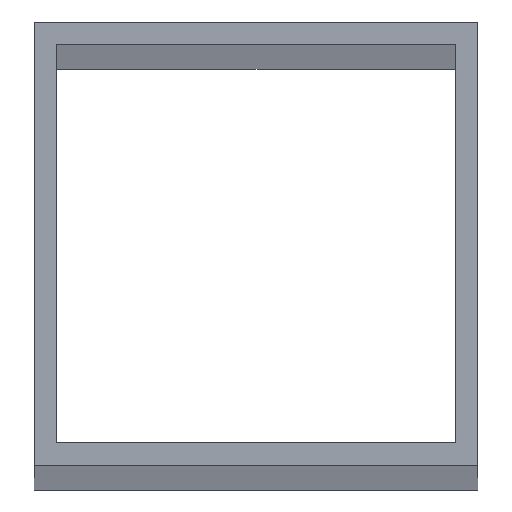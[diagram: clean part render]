
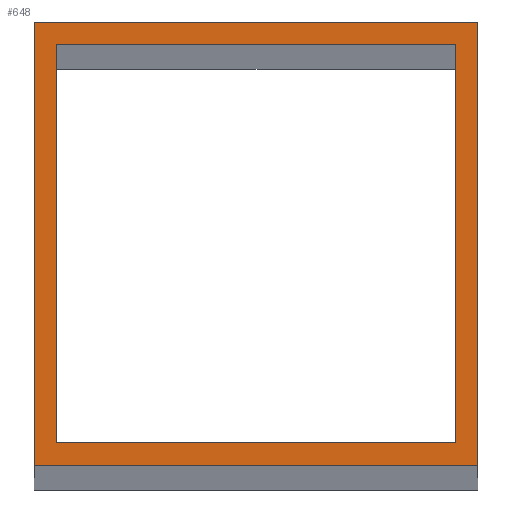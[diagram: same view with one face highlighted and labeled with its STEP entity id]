
A CAD part, top view. The second image highlights one B-rep face of the part: STEP entity #648.
In plain terms, the highlighted planar face has unit normal (0, 0, 1).
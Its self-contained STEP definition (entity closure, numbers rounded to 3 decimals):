
#24 = VERTEX_POINT('',#25);
#25 = CARTESIAN_POINT('',(-40.,-40.,2570.59));
#32 = PLANE('',#33);
#33 = AXIS2_PLACEMENT_3D('',#34,#35,#36);
#34 = CARTESIAN_POINT('',(-40.,-40.,0.));
#35 = DIRECTION('',(0.,1.,0.));
#36 = DIRECTION('',(1.,0.,0.));
#44 = PLANE('',#45);
#45 = AXIS2_PLACEMENT_3D('',#46,#47,#48);
#46 = CARTESIAN_POINT('',(-40.,40.,0.));
#47 = DIRECTION('',(1.,0.,-0.));
#48 = DIRECTION('',(0.,-1.,0.));
#56 = EDGE_CURVE('',#24,#57,#59,.T.);
#57 = VERTEX_POINT('',#58);
#58 = CARTESIAN_POINT('',(40.,-40.,2570.59));
#59 = SURFACE_CURVE('',#60,(#64,#71),.PCURVE_S1.);
#60 = LINE('',#61,#62);
#61 = CARTESIAN_POINT('',(-40.,-40.,2570.59));
#62 = VECTOR('',#63,1.);
#63 = DIRECTION('',(1.,0.,0.));
#64 = PCURVE('',#32,#65);
#65 = DEFINITIONAL_REPRESENTATION('',(#66),#70);
#66 = LINE('',#67,#68);
#67 = CARTESIAN_POINT('',(0.,-2570.59));
#68 = VECTOR('',#69,1.);
#69 = DIRECTION('',(1.,0.));
#70 = ( GEOMETRIC_REPRESENTATION_CONTEXT(2) 
PARAMETRIC_REPRESENTATION_CONTEXT() REPRESENTATION_CONTEXT('2D SPACE',''
  ) );
#71 = PCURVE('',#72,#77);
#72 = PLANE('',#73);
#73 = AXIS2_PLACEMENT_3D('',#74,#75,#76);
#74 = CARTESIAN_POINT('',(0.,0.,2570.59));
#75 = DIRECTION('',(0.,0.,1.));
#76 = DIRECTION('',(1.,0.,-0.));
#77 = DEFINITIONAL_REPRESENTATION('',(#78),#82);
#78 = LINE('',#79,#80);
#79 = CARTESIAN_POINT('',(-40.,-40.));
#80 = VECTOR('',#81,1.);
#81 = DIRECTION('',(1.,0.));
#82 = ( GEOMETRIC_REPRESENTATION_CONTEXT(2) 
PARAMETRIC_REPRESENTATION_CONTEXT() REPRESENTATION_CONTEXT('2D SPACE',''
  ) );
#100 = PLANE('',#101);
#101 = AXIS2_PLACEMENT_3D('',#102,#103,#104);
#102 = CARTESIAN_POINT('',(40.,-40.,0.));
#103 = DIRECTION('',(-1.,0.,0.));
#104 = DIRECTION('',(0.,1.,0.));
#142 = EDGE_CURVE('',#57,#143,#145,.T.);
#143 = VERTEX_POINT('',#144);
#144 = CARTESIAN_POINT('',(40.,40.,2570.59));
#145 = SURFACE_CURVE('',#146,(#150,#157),.PCURVE_S1.);
#146 = LINE('',#147,#148);
#147 = CARTESIAN_POINT('',(40.,-40.,2570.59));
#148 = VECTOR('',#149,1.);
#149 = DIRECTION('',(0.,1.,0.));
#150 = PCURVE('',#100,#151);
#151 = DEFINITIONAL_REPRESENTATION('',(#152),#156);
#152 = LINE('',#153,#154);
#153 = CARTESIAN_POINT('',(0.,-2570.59));
#154 = VECTOR('',#155,1.);
#155 = DIRECTION('',(1.,0.));
#156 = ( GEOMETRIC_REPRESENTATION_CONTEXT(2) 
PARAMETRIC_REPRESENTATION_CONTEXT() REPRESENTATION_CONTEXT('2D SPACE',''
  ) );
#157 = PCURVE('',#72,#158);
#158 = DEFINITIONAL_REPRESENTATION('',(#159),#163);
#159 = LINE('',#160,#161);
#160 = CARTESIAN_POINT('',(40.,-40.));
#161 = VECTOR('',#162,1.);
#162 = DIRECTION('',(0.,1.));
#163 = ( GEOMETRIC_REPRESENTATION_CONTEXT(2) 
PARAMETRIC_REPRESENTATION_CONTEXT() REPRESENTATION_CONTEXT('2D SPACE',''
  ) );
#181 = PLANE('',#182);
#182 = AXIS2_PLACEMENT_3D('',#183,#184,#185);
#183 = CARTESIAN_POINT('',(40.,40.,0.));
#184 = DIRECTION('',(0.,-1.,0.));
#185 = DIRECTION('',(-1.,0.,0.));
#218 = EDGE_CURVE('',#143,#219,#221,.T.);
#219 = VERTEX_POINT('',#220);
#220 = CARTESIAN_POINT('',(-40.,40.,2570.59));
#221 = SURFACE_CURVE('',#222,(#226,#233),.PCURVE_S1.);
#222 = LINE('',#223,#224);
#223 = CARTESIAN_POINT('',(40.,40.,2570.59));
#224 = VECTOR('',#225,1.);
#225 = DIRECTION('',(-1.,0.,0.));
#226 = PCURVE('',#181,#227);
#227 = DEFINITIONAL_REPRESENTATION('',(#228),#232);
#228 = LINE('',#229,#230);
#229 = CARTESIAN_POINT('',(0.,-2570.59));
#230 = VECTOR('',#231,1.);
#231 = DIRECTION('',(1.,0.));
#232 = ( GEOMETRIC_REPRESENTATION_CONTEXT(2) 
PARAMETRIC_REPRESENTATION_CONTEXT() REPRESENTATION_CONTEXT('2D SPACE',''
  ) );
#233 = PCURVE('',#72,#234);
#234 = DEFINITIONAL_REPRESENTATION('',(#235),#239);
#235 = LINE('',#236,#237);
#236 = CARTESIAN_POINT('',(40.,40.));
#237 = VECTOR('',#238,1.);
#238 = DIRECTION('',(-1.,0.));
#239 = ( GEOMETRIC_REPRESENTATION_CONTEXT(2) 
PARAMETRIC_REPRESENTATION_CONTEXT() REPRESENTATION_CONTEXT('2D SPACE',''
  ) );
#289 = EDGE_CURVE('',#219,#24,#290,.T.);
#290 = SURFACE_CURVE('',#291,(#295,#302),.PCURVE_S1.);
#291 = LINE('',#292,#293);
#292 = CARTESIAN_POINT('',(-40.,40.,2570.59));
#293 = VECTOR('',#294,1.);
#294 = DIRECTION('',(0.,-1.,0.));
#295 = PCURVE('',#44,#296);
#296 = DEFINITIONAL_REPRESENTATION('',(#297),#301);
#297 = LINE('',#298,#299);
#298 = CARTESIAN_POINT('',(0.,-2570.59));
#299 = VECTOR('',#300,1.);
#300 = DIRECTION('',(1.,0.));
#301 = ( GEOMETRIC_REPRESENTATION_CONTEXT(2) 
PARAMETRIC_REPRESENTATION_CONTEXT() REPRESENTATION_CONTEXT('2D SPACE',''
  ) );
#302 = PCURVE('',#72,#303);
#303 = DEFINITIONAL_REPRESENTATION('',(#304),#308);
#304 = LINE('',#305,#306);
#305 = CARTESIAN_POINT('',(-40.,40.));
#306 = VECTOR('',#307,1.);
#307 = DIRECTION('',(0.,-1.));
#308 = ( GEOMETRIC_REPRESENTATION_CONTEXT(2) 
PARAMETRIC_REPRESENTATION_CONTEXT() REPRESENTATION_CONTEXT('2D SPACE',''
  ) );
#338 = VERTEX_POINT('',#339);
#339 = CARTESIAN_POINT('',(-36.,-36.,2570.59));
#346 = PLANE('',#347);
#347 = AXIS2_PLACEMENT_3D('',#348,#349,#350);
#348 = CARTESIAN_POINT('',(-36.,-36.,0.));
#349 = DIRECTION('',(0.,1.,0.));
#350 = DIRECTION('',(1.,0.,0.));
#358 = PLANE('',#359);
#359 = AXIS2_PLACEMENT_3D('',#360,#361,#362);
#360 = CARTESIAN_POINT('',(-36.,36.,0.));
#361 = DIRECTION('',(1.,0.,-0.));
#362 = DIRECTION('',(0.,-1.,0.));
#370 = EDGE_CURVE('',#338,#371,#373,.T.);
#371 = VERTEX_POINT('',#372);
#372 = CARTESIAN_POINT('',(36.,-36.,2570.59));
#373 = SURFACE_CURVE('',#374,(#378,#385),.PCURVE_S1.);
#374 = LINE('',#375,#376);
#375 = CARTESIAN_POINT('',(-36.,-36.,2570.59));
#376 = VECTOR('',#377,1.);
#377 = DIRECTION('',(1.,0.,0.));
#378 = PCURVE('',#346,#379);
#379 = DEFINITIONAL_REPRESENTATION('',(#380),#384);
#380 = LINE('',#381,#382);
#381 = CARTESIAN_POINT('',(0.,-2570.59));
#382 = VECTOR('',#383,1.);
#383 = DIRECTION('',(1.,0.));
#384 = ( GEOMETRIC_REPRESENTATION_CONTEXT(2) 
PARAMETRIC_REPRESENTATION_CONTEXT() REPRESENTATION_CONTEXT('2D SPACE',''
  ) );
#385 = PCURVE('',#72,#386);
#386 = DEFINITIONAL_REPRESENTATION('',(#387),#391);
#387 = LINE('',#388,#389);
#388 = CARTESIAN_POINT('',(-36.,-36.));
#389 = VECTOR('',#390,1.);
#390 = DIRECTION('',(1.,0.));
#391 = ( GEOMETRIC_REPRESENTATION_CONTEXT(2) 
PARAMETRIC_REPRESENTATION_CONTEXT() REPRESENTATION_CONTEXT('2D SPACE',''
  ) );
#409 = PLANE('',#410);
#410 = AXIS2_PLACEMENT_3D('',#411,#412,#413);
#411 = CARTESIAN_POINT('',(36.,-36.,0.));
#412 = DIRECTION('',(-1.,0.,0.));
#413 = DIRECTION('',(0.,1.,0.));
#446 = EDGE_CURVE('',#371,#447,#449,.T.);
#447 = VERTEX_POINT('',#448);
#448 = CARTESIAN_POINT('',(36.,36.,2570.59));
#449 = SURFACE_CURVE('',#450,(#454,#461),.PCURVE_S1.);
#450 = LINE('',#451,#452);
#451 = CARTESIAN_POINT('',(36.,-36.,2570.59));
#452 = VECTOR('',#453,1.);
#453 = DIRECTION('',(0.,1.,0.));
#454 = PCURVE('',#409,#455);
#455 = DEFINITIONAL_REPRESENTATION('',(#456),#460);
#456 = LINE('',#457,#458);
#457 = CARTESIAN_POINT('',(0.,-2570.59));
#458 = VECTOR('',#459,1.);
#459 = DIRECTION('',(1.,0.));
#460 = ( GEOMETRIC_REPRESENTATION_CONTEXT(2) 
PARAMETRIC_REPRESENTATION_CONTEXT() REPRESENTATION_CONTEXT('2D SPACE',''
  ) );
#461 = PCURVE('',#72,#462);
#462 = DEFINITIONAL_REPRESENTATION('',(#463),#467);
#463 = LINE('',#464,#465);
#464 = CARTESIAN_POINT('',(36.,-36.));
#465 = VECTOR('',#466,1.);
#466 = DIRECTION('',(0.,1.));
#467 = ( GEOMETRIC_REPRESENTATION_CONTEXT(2) 
PARAMETRIC_REPRESENTATION_CONTEXT() REPRESENTATION_CONTEXT('2D SPACE',''
  ) );
#485 = PLANE('',#486);
#486 = AXIS2_PLACEMENT_3D('',#487,#488,#489);
#487 = CARTESIAN_POINT('',(36.,36.,0.));
#488 = DIRECTION('',(0.,-1.,0.));
#489 = DIRECTION('',(-1.,0.,0.));
#522 = EDGE_CURVE('',#447,#523,#525,.T.);
#523 = VERTEX_POINT('',#524);
#524 = CARTESIAN_POINT('',(-36.,36.,2570.59));
#525 = SURFACE_CURVE('',#526,(#530,#537),.PCURVE_S1.);
#526 = LINE('',#527,#528);
#527 = CARTESIAN_POINT('',(36.,36.,2570.59));
#528 = VECTOR('',#529,1.);
#529 = DIRECTION('',(-1.,0.,0.));
#530 = PCURVE('',#485,#531);
#531 = DEFINITIONAL_REPRESENTATION('',(#532),#536);
#532 = LINE('',#533,#534);
#533 = CARTESIAN_POINT('',(0.,-2570.59));
#534 = VECTOR('',#535,1.);
#535 = DIRECTION('',(1.,0.));
#536 = ( GEOMETRIC_REPRESENTATION_CONTEXT(2) 
PARAMETRIC_REPRESENTATION_CONTEXT() REPRESENTATION_CONTEXT('2D SPACE',''
  ) );
#537 = PCURVE('',#72,#538);
#538 = DEFINITIONAL_REPRESENTATION('',(#539),#543);
#539 = LINE('',#540,#541);
#540 = CARTESIAN_POINT('',(36.,36.));
#541 = VECTOR('',#542,1.);
#542 = DIRECTION('',(-1.,0.));
#543 = ( GEOMETRIC_REPRESENTATION_CONTEXT(2) 
PARAMETRIC_REPRESENTATION_CONTEXT() REPRESENTATION_CONTEXT('2D SPACE',''
  ) );
#593 = EDGE_CURVE('',#523,#338,#594,.T.);
#594 = SURFACE_CURVE('',#595,(#599,#606),.PCURVE_S1.);
#595 = LINE('',#596,#597);
#596 = CARTESIAN_POINT('',(-36.,36.,2570.59));
#597 = VECTOR('',#598,1.);
#598 = DIRECTION('',(0.,-1.,0.));
#599 = PCURVE('',#358,#600);
#600 = DEFINITIONAL_REPRESENTATION('',(#601),#605);
#601 = LINE('',#602,#603);
#602 = CARTESIAN_POINT('',(0.,-2570.59));
#603 = VECTOR('',#604,1.);
#604 = DIRECTION('',(1.,0.));
#605 = ( GEOMETRIC_REPRESENTATION_CONTEXT(2) 
PARAMETRIC_REPRESENTATION_CONTEXT() REPRESENTATION_CONTEXT('2D SPACE',''
  ) );
#606 = PCURVE('',#72,#607);
#607 = DEFINITIONAL_REPRESENTATION('',(#608),#612);
#608 = LINE('',#609,#610);
#609 = CARTESIAN_POINT('',(-36.,36.));
#610 = VECTOR('',#611,1.);
#611 = DIRECTION('',(0.,-1.));
#612 = ( GEOMETRIC_REPRESENTATION_CONTEXT(2) 
PARAMETRIC_REPRESENTATION_CONTEXT() REPRESENTATION_CONTEXT('2D SPACE',''
  ) );
#648 = ADVANCED_FACE('',(#649,#655),#72,.T.);
#649 = FACE_BOUND('',#650,.T.);
#650 = EDGE_LOOP('',(#651,#652,#653,#654));
#651 = ORIENTED_EDGE('',*,*,#56,.T.);
#652 = ORIENTED_EDGE('',*,*,#142,.T.);
#653 = ORIENTED_EDGE('',*,*,#218,.T.);
#654 = ORIENTED_EDGE('',*,*,#289,.T.);
#655 = FACE_BOUND('',#656,.F.);
#656 = EDGE_LOOP('',(#657,#658,#659,#660));
#657 = ORIENTED_EDGE('',*,*,#370,.T.);
#658 = ORIENTED_EDGE('',*,*,#446,.T.);
#659 = ORIENTED_EDGE('',*,*,#522,.T.);
#660 = ORIENTED_EDGE('',*,*,#593,.T.);
